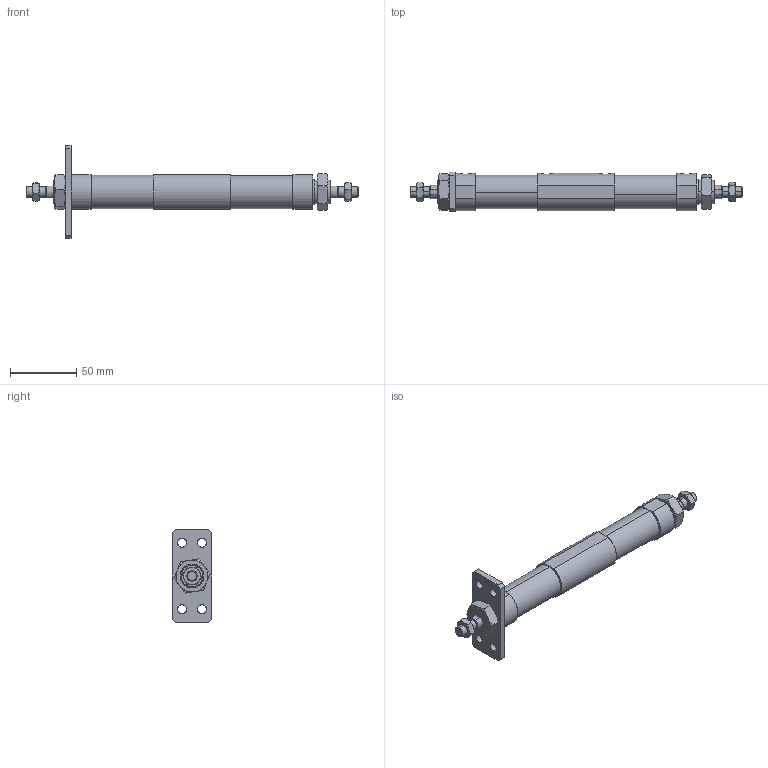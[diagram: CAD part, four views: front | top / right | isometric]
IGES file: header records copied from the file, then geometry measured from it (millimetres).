
Start section: SolidWorks IGES file using analytic representation for surfaces
Global section: file name: C:\Users\Toshiba\Desktop\JGD7-20-15-15-A.IGS; native system: SolidWorks 2014; preprocessor: SolidWorks 2014; author: Toshiba; date: 160419.152042; units: millimetre
Bounding box: 250 x 30 x 70 mm (x, y, z)
Surface area: 33795.7 mm2 (no closed solid volume)
Topology: 0 solids, 0 shells, 186 faces, 3404 edges, 3404 vertices
Faces by surface type: bspline 126, revolution 60
